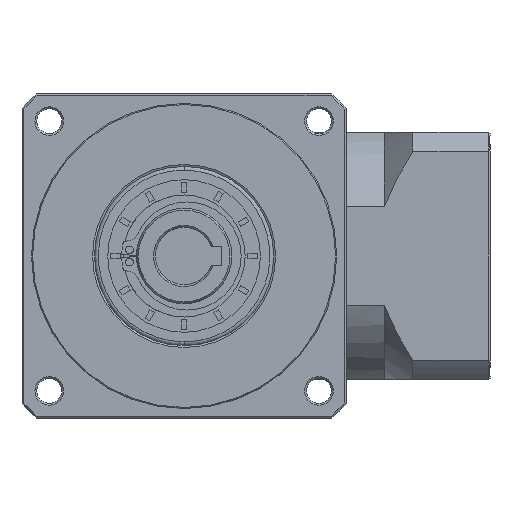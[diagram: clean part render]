
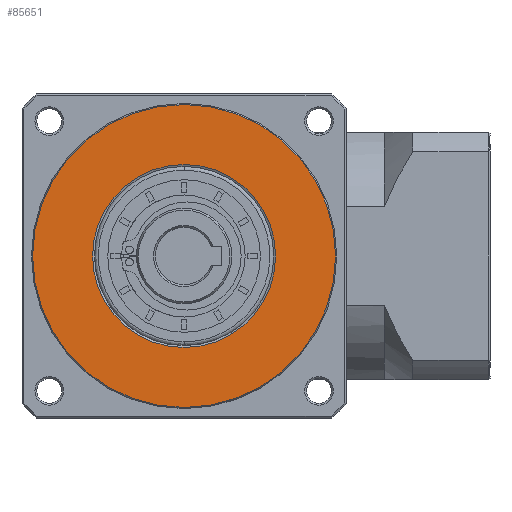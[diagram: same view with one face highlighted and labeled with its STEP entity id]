
A CAD part, left-side view. The second image highlights one B-rep face of the part: STEP entity #85651.
In plain terms, the highlighted planar face has unit normal (-1, 0, 0).
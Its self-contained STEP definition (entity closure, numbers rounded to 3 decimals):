
#1368 = EDGE_CURVE ( 'NONE', #155415, #102462, #89209, .T. ) ;
#1405 = CIRCLE ( 'NONE', #156492, 39.711 ) ;
#5776 = AXIS2_PLACEMENT_3D ( 'NONE', #171682, #92251, #12636 ) ;
#12636 = DIRECTION ( 'NONE',  ( 0., 0., -1. ) ) ;
#14450 = EDGE_LOOP ( 'NONE', ( #75206, #89472 ) ) ;
#24307 = CARTESIAN_POINT ( 'NONE',  ( -269.442, -91.835, -377.049 ) ) ;
#25418 = PLANE ( 'NONE',  #5776 ) ;
#27849 = FACE_OUTER_BOUND ( 'NONE', #14450, .T. ) ;
#27966 = CARTESIAN_POINT ( 'NONE',  ( -269.442, -91.835, -353.049 ) ) ;
#33892 = EDGE_CURVE ( 'NONE', #102462, #155415, #49321, .T. ) ;
#41336 = DIRECTION ( 'NONE',  ( 0., 1., 0. ) ) ;
#49321 = CIRCLE ( 'NONE', #126615, 24. ) ;
#49995 = ORIENTED_EDGE ( 'NONE', *, *, #1368, .T. ) ;
#50687 = AXIS2_PLACEMENT_3D ( 'NONE', #156614, #77171, #169947 ) ;
#50842 = CARTESIAN_POINT ( 'NONE',  ( -269.442, -52.124, -353.049 ) ) ;
#51416 = CARTESIAN_POINT ( 'NONE',  ( -269.442, -91.835, -353.049 ) ) ;
#64720 = DIRECTION ( 'NONE',  ( 0., 0., -1. ) ) ;
#65474 = EDGE_CURVE ( 'NONE', #84826, #150989, #147375, .T. ) ;
#66882 = DIRECTION ( 'NONE',  ( 1., 0., 0. ) ) ;
#75206 = ORIENTED_EDGE ( 'NONE', *, *, #65474, .F. ) ;
#77171 = DIRECTION ( 'NONE',  ( 1., 0., 0. ) ) ;
#83652 = EDGE_LOOP ( 'NONE', ( #101413, #49995 ) ) ;
#84826 = VERTEX_POINT ( 'NONE', #50842 ) ;
#85651 = ADVANCED_FACE ( 'NONE', ( #27849, #133779 ), #25418, .T. ) ;
#88581 = CARTESIAN_POINT ( 'NONE',  ( -269.442, -131.546, -353.049 ) ) ;
#89209 = CIRCLE ( 'NONE', #50687, 24. ) ;
#89472 = ORIENTED_EDGE ( 'NONE', *, *, #116504, .F. ) ;
#92251 = DIRECTION ( 'NONE',  ( -1., 0., 0. ) ) ;
#101413 = ORIENTED_EDGE ( 'NONE', *, *, #33892, .T. ) ;
#102462 = VERTEX_POINT ( 'NONE', #24307 ) ;
#116504 = EDGE_CURVE ( 'NONE', #150989, #84826, #1405, .T. ) ;
#120894 = DIRECTION ( 'NONE',  ( 1., 0., 0. ) ) ;
#126615 = AXIS2_PLACEMENT_3D ( 'NONE', #51416, #144305, #64720 ) ;
#133779 = FACE_BOUND ( 'NONE', #83652, .T. ) ;
#136857 = CARTESIAN_POINT ( 'NONE',  ( -269.442, -91.835, -329.049 ) ) ;
#142551 = AXIS2_PLACEMENT_3D ( 'NONE', #27966, #120894, #41336 ) ;
#144305 = DIRECTION ( 'NONE',  ( 1., 0., 0. ) ) ;
#146439 = CARTESIAN_POINT ( 'NONE',  ( -269.442, -91.835, -353.049 ) ) ;
#147375 = CIRCLE ( 'NONE', #142551, 39.711 ) ;
#150989 = VERTEX_POINT ( 'NONE', #88581 ) ;
#155415 = VERTEX_POINT ( 'NONE', #136857 ) ;
#156492 = AXIS2_PLACEMENT_3D ( 'NONE', #146439, #66882, #159768 ) ;
#156614 = CARTESIAN_POINT ( 'NONE',  ( -269.442, -91.835, -353.049 ) ) ;
#159768 = DIRECTION ( 'NONE',  ( 0., 1., 0. ) ) ;
#169947 = DIRECTION ( 'NONE',  ( 0., 0., -1. ) ) ;
#171682 = CARTESIAN_POINT ( 'NONE',  ( -269.442, -91.835, -353.049 ) ) ;
